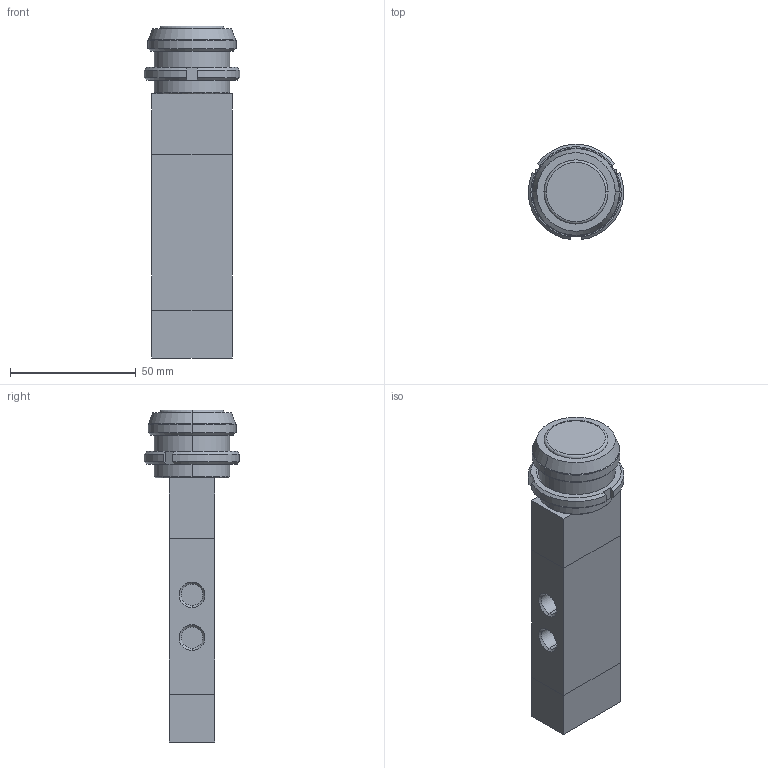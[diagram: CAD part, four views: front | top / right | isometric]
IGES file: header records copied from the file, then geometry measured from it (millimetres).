
Global section: file name: No Iges File Name specified; native system: AutoDesk Inventor R11.0; preprocessor: AutoDesk Inventor Iges Exporter R11.0; author: No Author specified; organization: No Organization specified; date: 20061219.114206; units: millimetre
Bounding box: 37.89 x 37.82 x 132 mm (x, y, z)
Volume: 80688.6 mm3; surface area: 17772.7 mm2
Topology: 2 solids, 2 shells, 87 faces, 196 edges, 122 vertices
Faces by surface type: plane 33, bspline 29, cone 14, cylinder 7, torus 2, revolution 2
